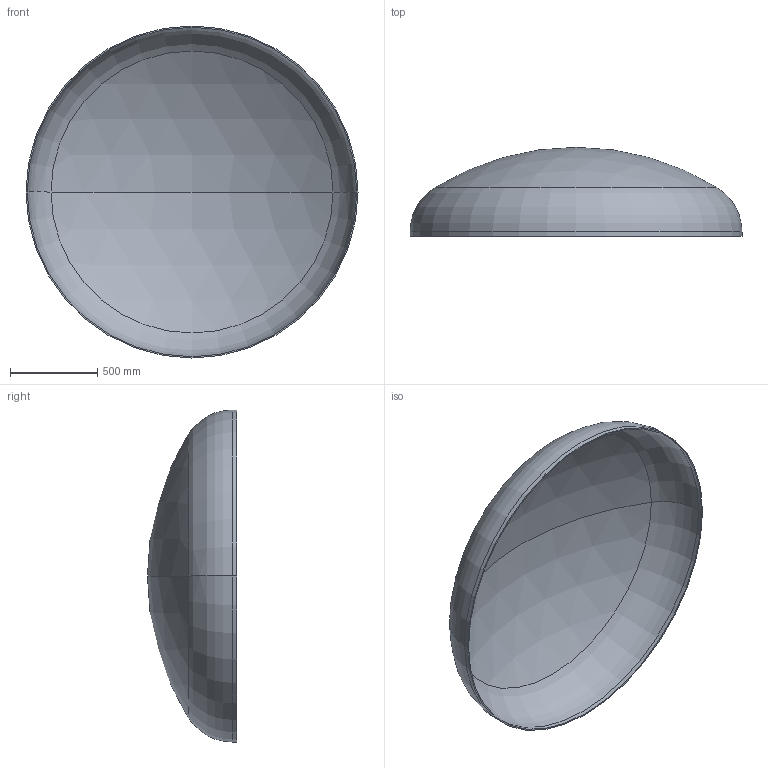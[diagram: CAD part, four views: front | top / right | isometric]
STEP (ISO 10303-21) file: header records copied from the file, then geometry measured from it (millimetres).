
FILE_DESCRIPTION (( 'STEP AP203' ), '1' );
FILE_NAME ('DIN 28013 Korbbogenform_-_Boden DIN 28013 - 1900 x 25 - I - s=7.step', '2016-07-01T12:52:35', ( '' ), ( '' ), 'SwSTEP 2.0', 'SolidWorks 2013', '' );
FILE_SCHEMA (( 'CONFIG_CONTROL_DESIGN' ));
Length unit declared in the file: millimetre
Products named in the file (1): DIN 28013 Korbbogenform_-_Boden DIN 28013 - 1900 x 25 - I - s=7
Bounding box: 1900 x 509.65 x 1900 mm (x, y, z)
Volume: 28349292.5 mm3; surface area: 8141526.5 mm2
Topology: 1 solids, 1 shells, 13 faces, 24 edges, 14 vertices
Faces by surface type: torus 4, cylinder 4, sphere 4, plane 1
Entity records: 407 total; most frequent: DIRECTION 72, CARTESIAN_POINT 52, ORIENTED_EDGE 48, AXIS2_PLACEMENT_3D 34, EDGE_CURVE 24, CIRCLE 20, VERTEX_POINT 14, EDGE_LOOP 14
